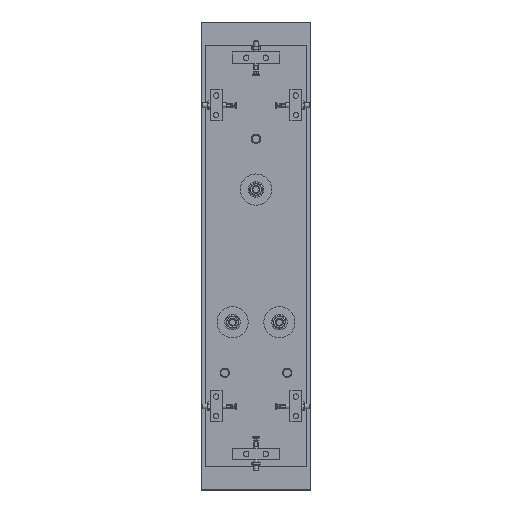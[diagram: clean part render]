
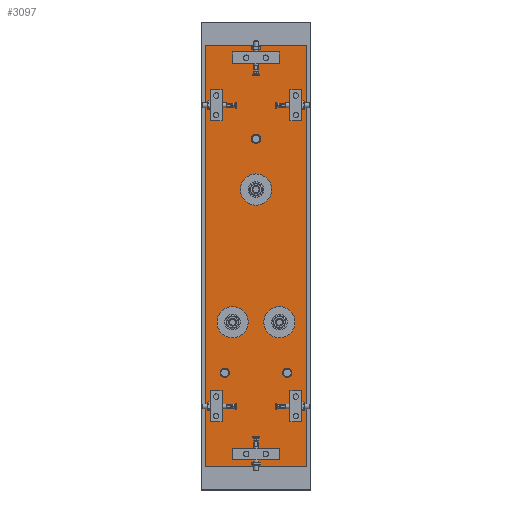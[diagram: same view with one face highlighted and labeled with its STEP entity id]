
A CAD part, top view. The second image highlights one B-rep face of the part: STEP entity #3097.
In plain terms, the highlighted planar face has unit normal (0, 0, 1).
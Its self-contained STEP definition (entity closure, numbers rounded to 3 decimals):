
#316=LINE('',#4869,#442);
#317=LINE('',#4871,#443);
#318=LINE('',#4873,#444);
#319=LINE('',#4874,#445);
#442=VECTOR('',#3869,540.);
#443=VECTOR('',#3870,130.);
#444=VECTOR('',#3871,540.);
#445=VECTOR('',#3872,130.);
#568=PLANE('',#3371);
#739=FACE_BOUND('',#1131,.T.);
#740=FACE_BOUND('',#1132,.T.);
#741=FACE_BOUND('',#1133,.T.);
#742=FACE_BOUND('',#1134,.T.);
#743=FACE_BOUND('',#1135,.T.);
#744=FACE_BOUND('',#1136,.T.);
#745=FACE_BOUND('',#1137,.T.);
#746=FACE_BOUND('',#1138,.T.);
#747=FACE_BOUND('',#1139,.T.);
#748=FACE_BOUND('',#1140,.T.);
#749=FACE_BOUND('',#1141,.T.);
#750=FACE_BOUND('',#1142,.T.);
#751=FACE_BOUND('',#1143,.T.);
#752=FACE_BOUND('',#1144,.T.);
#753=FACE_BOUND('',#1145,.T.);
#754=FACE_BOUND('',#1146,.T.);
#755=FACE_BOUND('',#1147,.T.);
#756=FACE_BOUND('',#1148,.T.);
#757=FACE_BOUND('',#1149,.T.);
#1131=EDGE_LOOP('',(#2325));
#1132=EDGE_LOOP('',(#2326));
#1133=EDGE_LOOP('',(#2327));
#1134=EDGE_LOOP('',(#2328));
#1135=EDGE_LOOP('',(#2329));
#1136=EDGE_LOOP('',(#2330));
#1137=EDGE_LOOP('',(#2331));
#1138=EDGE_LOOP('',(#2332));
#1139=EDGE_LOOP('',(#2333));
#1140=EDGE_LOOP('',(#2334));
#1141=EDGE_LOOP('',(#2335));
#1142=EDGE_LOOP('',(#2336));
#1143=EDGE_LOOP('',(#2337));
#1144=EDGE_LOOP('',(#2338));
#1145=EDGE_LOOP('',(#2339));
#1146=EDGE_LOOP('',(#2340));
#1147=EDGE_LOOP('',(#2341,#2342,#2343,#2344));
#1148=EDGE_LOOP('',(#2345));
#1149=EDGE_LOOP('',(#2346));
#1476=CIRCLE('',#3325,20.);
#1478=CIRCLE('',#3328,20.);
#1480=CIRCLE('',#3331,20.);
#1482=CIRCLE('',#3334,3.5);
#1484=CIRCLE('',#3337,3.5);
#1486=CIRCLE('',#3340,3.5);
#1488=CIRCLE('',#3343,3.5);
#1490=CIRCLE('',#3346,3.5);
#1492=CIRCLE('',#3349,3.5);
#1494=CIRCLE('',#3352,3.5);
#1496=CIRCLE('',#3355,3.5);
#1498=CIRCLE('',#3358,3.5);
#1500=CIRCLE('',#3361,3.5);
#1502=CIRCLE('',#3364,3.5);
#1504=CIRCLE('',#3367,3.5);
#1506=CIRCLE('',#3370,6.053);
#1507=CIRCLE('',#3372,6.053);
#1508=CIRCLE('',#3373,6.053);
#1646=VERTEX_POINT('',#4787);
#1648=VERTEX_POINT('',#4792);
#1650=VERTEX_POINT('',#4797);
#1652=VERTEX_POINT('',#4802);
#1654=VERTEX_POINT('',#4807);
#1656=VERTEX_POINT('',#4812);
#1658=VERTEX_POINT('',#4817);
#1660=VERTEX_POINT('',#4822);
#1662=VERTEX_POINT('',#4827);
#1664=VERTEX_POINT('',#4832);
#1666=VERTEX_POINT('',#4837);
#1668=VERTEX_POINT('',#4842);
#1670=VERTEX_POINT('',#4847);
#1672=VERTEX_POINT('',#4852);
#1674=VERTEX_POINT('',#4857);
#1676=VERTEX_POINT('',#4862);
#1677=VERTEX_POINT('',#4865);
#1678=VERTEX_POINT('',#4867);
#1679=VERTEX_POINT('',#4868);
#1680=VERTEX_POINT('',#4870);
#1681=VERTEX_POINT('',#4872);
#1682=VERTEX_POINT('',#4875);
#1926=EDGE_CURVE('',#1646,#1646,#1476,.T.);
#1928=EDGE_CURVE('',#1648,#1648,#1478,.T.);
#1930=EDGE_CURVE('',#1650,#1650,#1480,.T.);
#1932=EDGE_CURVE('',#1652,#1652,#1482,.T.);
#1934=EDGE_CURVE('',#1654,#1654,#1484,.T.);
#1936=EDGE_CURVE('',#1656,#1656,#1486,.T.);
#1938=EDGE_CURVE('',#1658,#1658,#1488,.T.);
#1940=EDGE_CURVE('',#1660,#1660,#1490,.T.);
#1942=EDGE_CURVE('',#1662,#1662,#1492,.T.);
#1944=EDGE_CURVE('',#1664,#1664,#1494,.T.);
#1946=EDGE_CURVE('',#1666,#1666,#1496,.T.);
#1948=EDGE_CURVE('',#1668,#1668,#1498,.T.);
#1950=EDGE_CURVE('',#1670,#1670,#1500,.T.);
#1952=EDGE_CURVE('',#1672,#1672,#1502,.T.);
#1954=EDGE_CURVE('',#1674,#1674,#1504,.T.);
#1956=EDGE_CURVE('',#1676,#1676,#1506,.T.);
#1957=EDGE_CURVE('',#1677,#1677,#1507,.T.);
#1958=EDGE_CURVE('',#1678,#1679,#316,.T.);
#1959=EDGE_CURVE('',#1679,#1680,#317,.T.);
#1960=EDGE_CURVE('',#1680,#1681,#318,.T.);
#1961=EDGE_CURVE('',#1681,#1678,#319,.T.);
#1962=EDGE_CURVE('',#1682,#1682,#1508,.T.);
#2325=ORIENTED_EDGE('',*,*,#1926,.T.);
#2326=ORIENTED_EDGE('',*,*,#1928,.T.);
#2327=ORIENTED_EDGE('',*,*,#1930,.T.);
#2328=ORIENTED_EDGE('',*,*,#1932,.T.);
#2329=ORIENTED_EDGE('',*,*,#1934,.T.);
#2330=ORIENTED_EDGE('',*,*,#1936,.T.);
#2331=ORIENTED_EDGE('',*,*,#1938,.T.);
#2332=ORIENTED_EDGE('',*,*,#1940,.T.);
#2333=ORIENTED_EDGE('',*,*,#1942,.T.);
#2334=ORIENTED_EDGE('',*,*,#1944,.T.);
#2335=ORIENTED_EDGE('',*,*,#1946,.T.);
#2336=ORIENTED_EDGE('',*,*,#1948,.T.);
#2337=ORIENTED_EDGE('',*,*,#1950,.T.);
#2338=ORIENTED_EDGE('',*,*,#1952,.T.);
#2339=ORIENTED_EDGE('',*,*,#1954,.T.);
#2340=ORIENTED_EDGE('',*,*,#1957,.F.);
#2341=ORIENTED_EDGE('',*,*,#1958,.T.);
#2342=ORIENTED_EDGE('',*,*,#1959,.T.);
#2343=ORIENTED_EDGE('',*,*,#1960,.T.);
#2344=ORIENTED_EDGE('',*,*,#1961,.T.);
#2345=ORIENTED_EDGE('',*,*,#1962,.F.);
#2346=ORIENTED_EDGE('',*,*,#1956,.F.);
#3097=ADVANCED_FACE('',(#739,#740,#741,#742,#743,#744,#745,#746,#747,#748,
#749,#750,#751,#752,#753,#754,#755,#756,#757),#568,.T.);
#3325=AXIS2_PLACEMENT_3D('',#4788,#3773,#3774);
#3328=AXIS2_PLACEMENT_3D('',#4793,#3779,#3780);
#3331=AXIS2_PLACEMENT_3D('',#4798,#3785,#3786);
#3334=AXIS2_PLACEMENT_3D('',#4803,#3791,#3792);
#3337=AXIS2_PLACEMENT_3D('',#4808,#3797,#3798);
#3340=AXIS2_PLACEMENT_3D('',#4813,#3803,#3804);
#3343=AXIS2_PLACEMENT_3D('',#4818,#3809,#3810);
#3346=AXIS2_PLACEMENT_3D('',#4823,#3815,#3816);
#3349=AXIS2_PLACEMENT_3D('',#4828,#3821,#3822);
#3352=AXIS2_PLACEMENT_3D('',#4833,#3827,#3828);
#3355=AXIS2_PLACEMENT_3D('',#4838,#3833,#3834);
#3358=AXIS2_PLACEMENT_3D('',#4843,#3839,#3840);
#3361=AXIS2_PLACEMENT_3D('',#4848,#3845,#3846);
#3364=AXIS2_PLACEMENT_3D('',#4853,#3851,#3852);
#3367=AXIS2_PLACEMENT_3D('',#4858,#3857,#3858);
#3370=AXIS2_PLACEMENT_3D('',#4863,#3863,#3864);
#3371=AXIS2_PLACEMENT_3D('',#4864,#3865,#3866);
#3372=AXIS2_PLACEMENT_3D('',#4866,#3867,#3868);
#3373=AXIS2_PLACEMENT_3D('',#4876,#3873,#3874);
#3773=DIRECTION('center_axis',(0.,0.,-1.));
#3774=DIRECTION('ref_axis',(-1.,0.,0.));
#3779=DIRECTION('center_axis',(0.,0.,-1.));
#3780=DIRECTION('ref_axis',(-1.,0.,0.));
#3785=DIRECTION('center_axis',(0.,0.,-1.));
#3786=DIRECTION('ref_axis',(-1.,0.,0.));
#3791=DIRECTION('center_axis',(0.,0.,-1.));
#3792=DIRECTION('ref_axis',(1.,0.,0.));
#3797=DIRECTION('center_axis',(0.,0.,-1.));
#3798=DIRECTION('ref_axis',(1.,0.,0.));
#3803=DIRECTION('center_axis',(0.,0.,-1.));
#3804=DIRECTION('ref_axis',(1.,0.,0.));
#3809=DIRECTION('center_axis',(0.,0.,-1.));
#3810=DIRECTION('ref_axis',(1.,0.,0.));
#3815=DIRECTION('center_axis',(0.,0.,-1.));
#3816=DIRECTION('ref_axis',(1.,0.,0.));
#3821=DIRECTION('center_axis',(0.,0.,-1.));
#3822=DIRECTION('ref_axis',(1.,0.,0.));
#3827=DIRECTION('center_axis',(0.,0.,-1.));
#3828=DIRECTION('ref_axis',(1.,0.,0.));
#3833=DIRECTION('center_axis',(0.,0.,-1.));
#3834=DIRECTION('ref_axis',(1.,0.,0.));
#3839=DIRECTION('center_axis',(0.,0.,-1.));
#3840=DIRECTION('ref_axis',(1.,0.,0.));
#3845=DIRECTION('center_axis',(0.,0.,-1.));
#3846=DIRECTION('ref_axis',(1.,0.,0.));
#3851=DIRECTION('center_axis',(0.,0.,-1.));
#3852=DIRECTION('ref_axis',(1.,0.,0.));
#3857=DIRECTION('center_axis',(0.,0.,-1.));
#3858=DIRECTION('ref_axis',(1.,0.,0.));
#3863=DIRECTION('center_axis',(0.,0.,1.));
#3864=DIRECTION('ref_axis',(-1.,0.,0.));
#3865=DIRECTION('center_axis',(0.,0.,1.));
#3866=DIRECTION('ref_axis',(1.,0.,0.));
#3867=DIRECTION('center_axis',(0.,0.,1.));
#3868=DIRECTION('ref_axis',(-1.,0.,0.));
#3869=DIRECTION('',(-1.,0.,0.));
#3870=DIRECTION('',(0.,-1.,0.));
#3871=DIRECTION('',(1.,0.,0.));
#3872=DIRECTION('',(0.,1.,0.));
#3873=DIRECTION('center_axis',(0.,0.,1.));
#3874=DIRECTION('ref_axis',(-1.,0.,0.));
#4787=CARTESIAN_POINT('',(105.,30.,18.));
#4788=CARTESIAN_POINT('Origin',(85.,30.,18.));
#4792=CARTESIAN_POINT('',(-65.,0.,18.));
#4793=CARTESIAN_POINT('Origin',(-85.,0.,18.));
#4797=CARTESIAN_POINT('',(105.,-30.,18.));
#4798=CARTESIAN_POINT('Origin',(85.,-30.,18.));
#4802=CARTESIAN_POINT('',(-202.,51.,18.));
#4803=CARTESIAN_POINT('Origin',(-205.5,51.,18.));
#4807=CARTESIAN_POINT('',(-250.5,-12.5,18.));
#4808=CARTESIAN_POINT('Origin',(-254.,-12.5,18.));
#4812=CARTESIAN_POINT('',(-177.,-51.,18.));
#4813=CARTESIAN_POINT('Origin',(-180.5,-51.,18.));
#4817=CARTESIAN_POINT('',(209.,-51.,18.));
#4818=CARTESIAN_POINT('Origin',(205.5,-51.,18.));
#4822=CARTESIAN_POINT('',(257.5,12.5,18.));
#4823=CARTESIAN_POINT('Origin',(254.,12.5,18.));
#4827=CARTESIAN_POINT('',(184.,51.,18.));
#4828=CARTESIAN_POINT('Origin',(180.5,51.,18.));
#4832=CARTESIAN_POINT('',(209.,51.,18.));
#4833=CARTESIAN_POINT('Origin',(205.5,51.,18.));
#4837=CARTESIAN_POINT('',(257.5,-12.5,18.));
#4838=CARTESIAN_POINT('Origin',(254.,-12.5,18.));
#4842=CARTESIAN_POINT('',(184.,-51.,18.));
#4843=CARTESIAN_POINT('Origin',(180.5,-51.,18.));
#4847=CARTESIAN_POINT('',(-202.,-51.,18.));
#4848=CARTESIAN_POINT('Origin',(-205.5,-51.,18.));
#4852=CARTESIAN_POINT('',(-250.5,12.5,18.));
#4853=CARTESIAN_POINT('Origin',(-254.,12.5,18.));
#4857=CARTESIAN_POINT('',(-177.,51.,18.));
#4858=CARTESIAN_POINT('Origin',(-180.5,51.,18.));
#4862=CARTESIAN_POINT('',(156.053,40.,18.));
#4863=CARTESIAN_POINT('Origin',(150.,40.,18.));
#4864=CARTESIAN_POINT('Origin',(0.,0.,18.));
#4865=CARTESIAN_POINT('',(156.053,-40.,18.));
#4866=CARTESIAN_POINT('Origin',(150.,-40.,18.));
#4867=CARTESIAN_POINT('',(270.,65.,18.));
#4868=CARTESIAN_POINT('',(-270.,65.,18.));
#4869=CARTESIAN_POINT('',(-270.,65.,18.));
#4870=CARTESIAN_POINT('',(-270.,-65.,18.));
#4871=CARTESIAN_POINT('',(-270.,-65.,18.));
#4872=CARTESIAN_POINT('',(270.,-65.,18.));
#4873=CARTESIAN_POINT('',(270.,-65.,18.));
#4874=CARTESIAN_POINT('',(270.,65.,18.));
#4875=CARTESIAN_POINT('',(-143.947,0.,18.));
#4876=CARTESIAN_POINT('Origin',(-150.,0.,18.));
